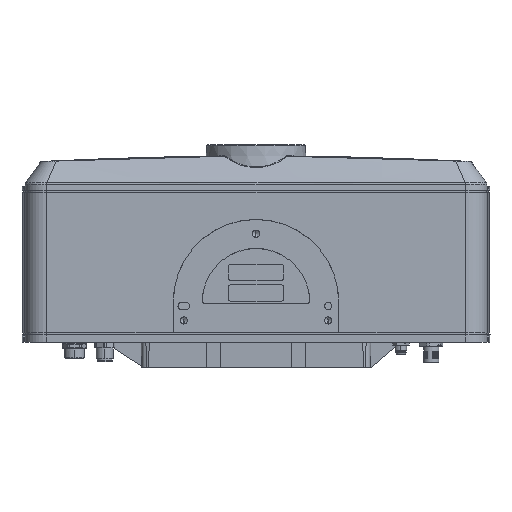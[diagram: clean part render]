
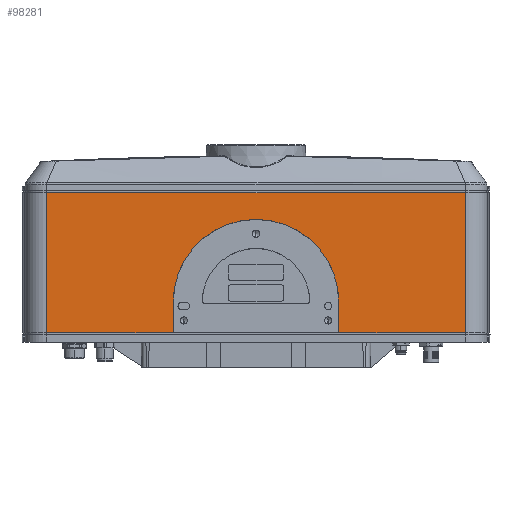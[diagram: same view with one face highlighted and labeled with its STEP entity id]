
A CAD part, front view. The second image highlights one B-rep face of the part: STEP entity #98281.
In plain terms, the highlighted planar face has unit normal (0, -1, 0).
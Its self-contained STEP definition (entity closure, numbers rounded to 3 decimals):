
#10698 = CARTESIAN_POINT ( 'NONE',  ( -0.08, -45., 22.75 ) ) ;
#12023 = CARTESIAN_POINT ( 'NONE',  ( 145., -45., 1.5 ) ) ;
#17526 = CARTESIAN_POINT ( 'NONE',  ( 145., -45., 1.5 ) ) ;
#18831 = DIRECTION ( 'NONE',  ( -1., 0., 0. ) ) ;
#18985 = CARTESIAN_POINT ( 'NONE',  ( -145., -45., 98.5 ) ) ;
#22321 = ORIENTED_EDGE ( 'NONE', *, *, #43375, .F. ) ;
#22561 = VERTEX_POINT ( 'NONE', #22867 ) ;
#22867 = CARTESIAN_POINT ( 'NONE',  ( -57.33, -45., 1.5 ) ) ;
#25870 = DIRECTION ( 'NONE',  ( 0., 0., 1. ) ) ;
#27545 = CARTESIAN_POINT ( 'NONE',  ( -145., -45., 100. ) ) ;
#28175 = CARTESIAN_POINT ( 'NONE',  ( 0.08, -45., 22.75 ) ) ;
#30062 = ORIENTED_EDGE ( 'NONE', *, *, #98282, .F. ) ;
#31710 = LINE ( 'NONE', #45783, #91023 ) ;
#33865 = VERTEX_POINT ( 'NONE', #87536 ) ;
#39708 = EDGE_CURVE ( 'NONE', #22561, #70084, #192484, .T. ) ;
#40229 = LINE ( 'NONE', #180172, #156299 ) ;
#42433 = DIRECTION ( 'NONE',  ( -1., 0., 0. ) ) ;
#43375 = EDGE_CURVE ( 'NONE', #140544, #189747, #40229, .T. ) ;
#43426 = DIRECTION ( 'NONE',  ( 0., 0., -1. ) ) ;
#43438 = DIRECTION ( 'NONE',  ( 0., 0., -1. ) ) ;
#43726 = AXIS2_PLACEMENT_3D ( 'NONE', #28175, #134148, #43438 ) ;
#44463 = CARTESIAN_POINT ( 'NONE',  ( 57.33, -45., 0. ) ) ;
#45783 = CARTESIAN_POINT ( 'NONE',  ( -57.33, -45., 0. ) ) ;
#46956 = ORIENTED_EDGE ( 'NONE', *, *, #165244, .T. ) ;
#50235 = EDGE_CURVE ( 'NONE', #33865, #54564, #142409, .T. ) ;
#53921 = AXIS2_PLACEMENT_3D ( 'NONE', #27545, #73232, #179195 ) ;
#54564 = VERTEX_POINT ( 'NONE', #154789 ) ;
#59458 = ORIENTED_EDGE ( 'NONE', *, *, #168950, .F. ) ;
#60085 = EDGE_CURVE ( 'NONE', #110827, #73034, #146315, .T. ) ;
#66560 = VECTOR ( 'NONE', #193144, 1000. ) ;
#70084 = VERTEX_POINT ( 'NONE', #191807 ) ;
#71643 = VECTOR ( 'NONE', #42433, 1000. ) ;
#73034 = VERTEX_POINT ( 'NONE', #116564 ) ;
#73232 = DIRECTION ( 'NONE',  ( 0., 1., 0. ) ) ;
#77664 = EDGE_CURVE ( 'NONE', #88490, #22561, #31710, .T. ) ;
#77890 = ORIENTED_EDGE ( 'NONE', *, *, #87725, .F. ) ;
#80385 = CARTESIAN_POINT ( 'NONE',  ( -57.33, -45., 22.75 ) ) ;
#82218 = DIRECTION ( 'NONE',  ( 1., 0., 0. ) ) ;
#87276 = CARTESIAN_POINT ( 'NONE',  ( -0.08, -45., 80. ) ) ;
#87536 = CARTESIAN_POINT ( 'NONE',  ( 0.08, -45., 80. ) ) ;
#87703 = CARTESIAN_POINT ( 'NONE',  ( 57.33, -45., 1.5 ) ) ;
#87725 = EDGE_CURVE ( 'NONE', #179170, #110827, #188549, .T. ) ;
#88490 = VERTEX_POINT ( 'NONE', #80385 ) ;
#91023 = VECTOR ( 'NONE', #182153, 1000. ) ;
#98281 = ADVANCED_FACE ( 'NONE', ( #148928 ), #163952, .F. ) ;
#98282 = EDGE_CURVE ( 'NONE', #73034, #33865, #108647, .T. ) ;
#101263 = VECTOR ( 'NONE', #165644, 1000. ) ;
#106864 = ORIENTED_EDGE ( 'NONE', *, *, #39708, .F. ) ;
#107987 = VECTOR ( 'NONE', #18831, 1000. ) ;
#108647 = CIRCLE ( 'NONE', #43726, 57.25 ) ;
#108985 = AXIS2_PLACEMENT_3D ( 'NONE', #10698, #116567, #25870 ) ;
#110827 = VERTEX_POINT ( 'NONE', #87703 ) ;
#116112 = CARTESIAN_POINT ( 'NONE',  ( 145., -45., 1.5 ) ) ;
#116564 = CARTESIAN_POINT ( 'NONE',  ( 57.33, -45., 22.75 ) ) ;
#116567 = DIRECTION ( 'NONE',  ( 0., -1., 0. ) ) ;
#120828 = CARTESIAN_POINT ( 'NONE',  ( 145., -45., 100. ) ) ;
#123229 = ORIENTED_EDGE ( 'NONE', *, *, #77664, .F. ) ;
#125356 = EDGE_LOOP ( 'NONE', ( #77890, #59458, #22321, #46956, #106864, #123229, #191597, #185586, #30062, #137738 ) ) ;
#125499 = VECTOR ( 'NONE', #43426, 1000. ) ;
#134139 = CARTESIAN_POINT ( 'NONE',  ( -145., -45., 100. ) ) ;
#134148 = DIRECTION ( 'NONE',  ( 0., -1., 0. ) ) ;
#136071 = DIRECTION ( 'NONE',  ( 0., 0., -1. ) ) ;
#137738 = ORIENTED_EDGE ( 'NONE', *, *, #60085, .F. ) ;
#140544 = VERTEX_POINT ( 'NONE', #18985 ) ;
#142409 = LINE ( 'NONE', #87276, #66560 ) ;
#146315 = LINE ( 'NONE', #44463, #101263 ) ;
#148928 = FACE_OUTER_BOUND ( 'NONE', #125356, .T. ) ;
#153098 = VECTOR ( 'NONE', #136071, 1000. ) ;
#154789 = CARTESIAN_POINT ( 'NONE',  ( -0.08, -45., 80. ) ) ;
#156299 = VECTOR ( 'NONE', #82218, 1000. ) ;
#163952 = PLANE ( 'NONE',  #53921 ) ;
#165244 = EDGE_CURVE ( 'NONE', #140544, #70084, #170504, .T. ) ;
#165436 = CIRCLE ( 'NONE', #108985, 57.25 ) ;
#165644 = DIRECTION ( 'NONE',  ( 0., 0., 1. ) ) ;
#168332 = CARTESIAN_POINT ( 'NONE',  ( 145., -45., 98.5 ) ) ;
#168950 = EDGE_CURVE ( 'NONE', #189747, #179170, #193289, .T. ) ;
#170504 = LINE ( 'NONE', #134139, #125499 ) ;
#175770 = EDGE_CURVE ( 'NONE', #54564, #88490, #165436, .T. ) ;
#179170 = VERTEX_POINT ( 'NONE', #116112 ) ;
#179195 = DIRECTION ( 'NONE',  ( 0., 0., 1. ) ) ;
#180172 = CARTESIAN_POINT ( 'NONE',  ( -145., -45., 98.5 ) ) ;
#182153 = DIRECTION ( 'NONE',  ( 0., 0., -1. ) ) ;
#185586 = ORIENTED_EDGE ( 'NONE', *, *, #50235, .F. ) ;
#188549 = LINE ( 'NONE', #17526, #107987 ) ;
#189747 = VERTEX_POINT ( 'NONE', #168332 ) ;
#191597 = ORIENTED_EDGE ( 'NONE', *, *, #175770, .F. ) ;
#191807 = CARTESIAN_POINT ( 'NONE',  ( -145., -45., 1.5 ) ) ;
#192484 = LINE ( 'NONE', #12023, #71643 ) ;
#193144 = DIRECTION ( 'NONE',  ( -1., 0., 0. ) ) ;
#193289 = LINE ( 'NONE', #120828, #153098 ) ;
